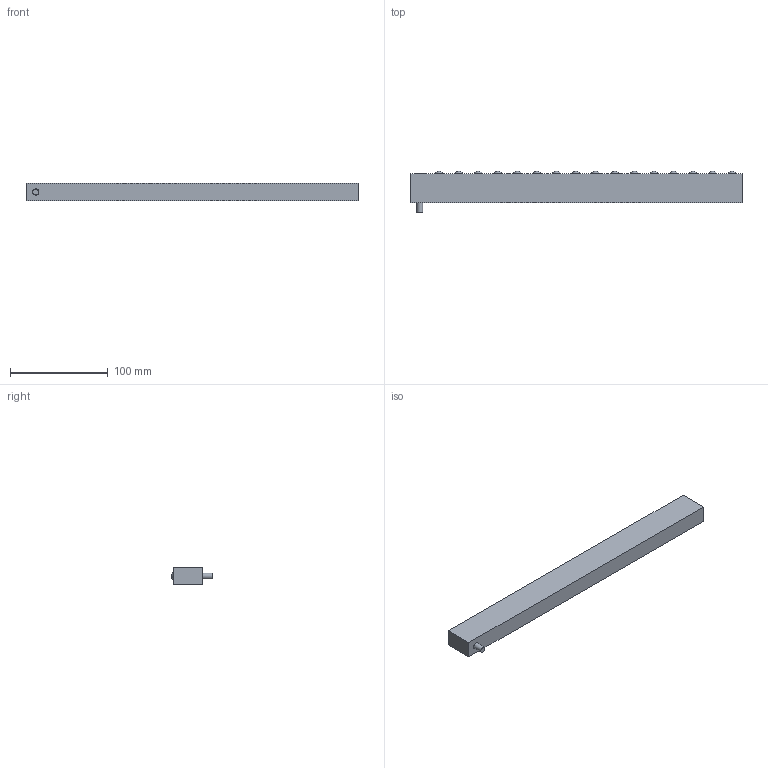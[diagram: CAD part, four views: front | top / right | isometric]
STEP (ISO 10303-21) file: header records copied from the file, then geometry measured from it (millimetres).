
FILE_DESCRIPTION(/* description */ (''),/* implementation_level */ '2;1');
FILE_NAME(/* name */ 'V:\Shrinkwrap\EMB\EMB - SHRINKWRAP\EMB18-16_Shrinkwrap_1.stp',/* time_stamp */ '2022-08-12T10:04:39+02:00',/* author */ ('cw'),/* organization */ (''),/* preprocessor_version */ 'ST-DEVELOPER v17',/* originating_system */ 'Autodesk Inventor 2019',/* authorisation */ '');
FILE_SCHEMA (('AUTOMOTIVE_DESIGN { 1 0 10303 214 3 1 1 }'));
Length unit declared in the file: millimetre
Products named in the file (1): EMB18-16_Shrinkwrap_1
Bounding box: 340 x 42.27 x 17.8 mm (x, y, z)
Volume: 180286.8 mm3; surface area: 35151.6 mm2
Topology: 1 solids, 1 shells, 30 faces, 44 edges, 38 vertices
Faces by surface type: sphere 16, plane 10, cylinder 4
Full cylindrical faces by diameter (mm): 6 x1, 6.5 x1, 10 x1, 11 x1
Entity records: 784 total; most frequent: DIRECTION 130, CARTESIAN_POINT 111, ORIENTED_EDGE 84, AXIS2_PLACEMENT_3D 57, EDGE_LOOP 50, EDGE_CURVE 42, VERTEX_POINT 34, STYLED_ITEM 33
